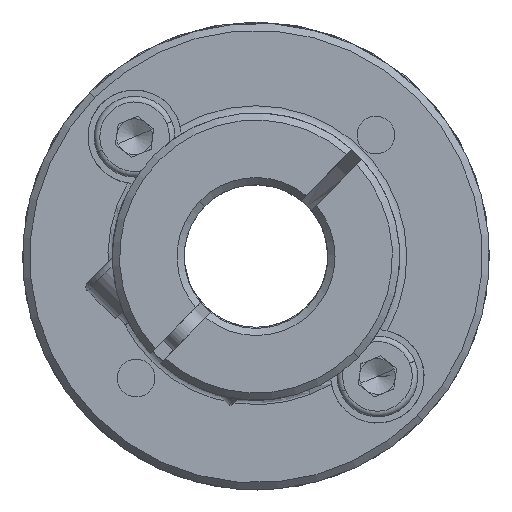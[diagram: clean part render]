
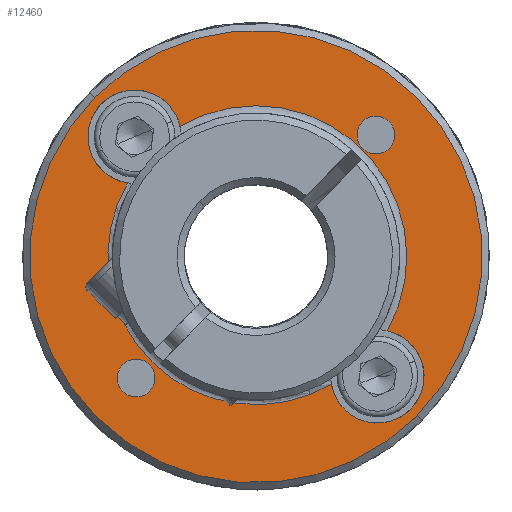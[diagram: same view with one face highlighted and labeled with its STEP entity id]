
A CAD part, front view. The second image highlights one B-rep face of the part: STEP entity #12460.
In plain terms, the highlighted planar face has unit normal (0, -1, 0).
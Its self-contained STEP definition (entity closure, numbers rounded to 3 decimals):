
#289 = ORIENTED_EDGE ( 'NONE', *, *, #15441, .T. ) ;
#295 = CARTESIAN_POINT ( 'NONE',  ( -11.496, -18.979, 19.914 ) ) ;
#310 = DIRECTION ( 'NONE',  ( -0.712, 0., 0.702 ) ) ;
#413 = AXIS2_PLACEMENT_3D ( 'NONE', #5800, #5734, #14969 ) ;
#798 = ORIENTED_EDGE ( 'NONE', *, *, #9162, .T. ) ;
#807 = ORIENTED_EDGE ( 'NONE', *, *, #17052, .T. ) ;
#878 = CARTESIAN_POINT ( 'NONE',  ( 2.598, -18.979, 32.699 ) ) ;
#915 = AXIS2_PLACEMENT_3D ( 'NONE', #3664, #6570, #6639 ) ;
#1114 = CIRCLE ( 'NONE', #915, 2.6 ) ;
#1464 = EDGE_CURVE ( 'NONE', #9658, #8188, #12120, .T. ) ;
#1711 = DIRECTION ( 'NONE',  ( 0., 1., 0. ) ) ;
#1752 = ORIENTED_EDGE ( 'NONE', *, *, #13676, .T. ) ;
#2036 = CIRCLE ( 'NONE', #6855, 1.05 ) ;
#2601 = DIRECTION ( 'NONE',  ( 0., -1., 0. ) ) ;
#2817 = DIRECTION ( 'NONE',  ( 0., -1., 0. ) ) ;
#2826 = CARTESIAN_POINT ( 'NONE',  ( 2.686, -18.979, 19.264 ) ) ;
#3136 = EDGE_CURVE ( 'NONE', #15263, #19233, #2036, .T. ) ;
#3258 = ORIENTED_EDGE ( 'NONE', *, *, #3136, .T. ) ;
#3391 = CARTESIAN_POINT ( 'NONE',  ( -10.749, -18.979, 19.176 ) ) ;
#3664 = CARTESIAN_POINT ( 'NONE',  ( 2.686, -18.979, 19.264 ) ) ;
#3709 = CARTESIAN_POINT ( 'NONE',  ( -10.002, -18.979, 18.439 ) ) ;
#3752 = DIRECTION ( 'NONE',  ( 0., 1., 0. ) ) ;
#4216 = DIRECTION ( 'NONE',  ( -0.712, 0., 0.702 ) ) ;
#4403 = CARTESIAN_POINT ( 'NONE',  ( -10.749, -18.979, 19.176 ) ) ;
#4815 = CARTESIAN_POINT ( 'NONE',  ( 1.85, -18.979, 33.437 ) ) ;
#4888 = DIRECTION ( 'NONE',  ( 0., 1., 0. ) ) ;
#5067 = CARTESIAN_POINT ( 'NONE',  ( 4.536, -18.979, 17.438 ) ) ;
#5505 = CARTESIAN_POINT ( 'NONE',  ( -4.076, -18.979, 25.938 ) ) ;
#5595 = DIRECTION ( 'NONE',  ( 0., 1., 0. ) ) ;
#5605 = CIRCLE ( 'NONE', #10765, 8.4 ) ;
#5725 = EDGE_LOOP ( 'NONE', ( #1752, #289 ) ) ;
#5734 = DIRECTION ( 'NONE',  ( 0., -1., 0. ) ) ;
#5757 = DIRECTION ( 'NONE',  ( -0.712, 0., 0.702 ) ) ;
#5800 = CARTESIAN_POINT ( 'NONE',  ( -4.076, -18.979, 25.938 ) ) ;
#6570 = DIRECTION ( 'NONE',  ( 0., 1., 0. ) ) ;
#6626 = EDGE_LOOP ( 'NONE', ( #17281, #14315 ) ) ;
#6639 = DIRECTION ( 'NONE',  ( -0.712, 0., 0.702 ) ) ;
#6726 = DIRECTION ( 'NONE',  ( -0.712, 0., 0.702 ) ) ;
#6759 = EDGE_CURVE ( 'NONE', #12612, #12569, #11797, .T. ) ;
#6855 = AXIS2_PLACEMENT_3D ( 'NONE', #18098, #14918, #7590 ) ;
#7086 = VERTEX_POINT ( 'NONE', #5067 ) ;
#7101 = FACE_BOUND ( 'NONE', #8597, .T. ) ;
#7285 = CARTESIAN_POINT ( 'NONE',  ( 3.238, -18.979, 21.805 ) ) ;
#7306 = DIRECTION ( 'NONE',  ( 0., 1., 0. ) ) ;
#7590 = DIRECTION ( 'NONE',  ( -0.712, 0., 0.702 ) ) ;
#7704 = ORIENTED_EDGE ( 'NONE', *, *, #9376, .T. ) ;
#7831 = DIRECTION ( 'NONE',  ( 0., 1., 0. ) ) ;
#8104 = AXIS2_PLACEMENT_3D ( 'NONE', #5505, #17601, #13412 ) ;
#8166 = AXIS2_PLACEMENT_3D ( 'NONE', #17832, #2601, #4216 ) ;
#8188 = VERTEX_POINT ( 'NONE', #9978 ) ;
#8211 = CARTESIAN_POINT ( 'NONE',  ( 3.345, -18.979, 31.962 ) ) ;
#8354 = DIRECTION ( 'NONE',  ( 0., 1., 0. ) ) ;
#8467 = ORIENTED_EDGE ( 'NONE', *, *, #9253, .T. ) ;
#8517 = DIRECTION ( 'NONE',  ( -0.712, 0., 0.702 ) ) ;
#8597 = EDGE_LOOP ( 'NONE', ( #807, #3258 ) ) ;
#8928 = CARTESIAN_POINT ( 'NONE',  ( -12.688, -18.979, 34.437 ) ) ;
#9162 = EDGE_CURVE ( 'NONE', #12569, #9358, #5605, .T. ) ;
#9219 = CARTESIAN_POINT ( 'NONE',  ( -4.076, -18.979, 25.938 ) ) ;
#9253 = EDGE_CURVE ( 'NONE', #7086, #9658, #1114, .T. ) ;
#9353 = AXIS2_PLACEMENT_3D ( 'NONE', #3391, #4888, #310 ) ;
#9358 = VERTEX_POINT ( 'NONE', #7285 ) ;
#9376 = EDGE_CURVE ( 'NONE', #9358, #7086, #10332, .T. ) ;
#9658 = VERTEX_POINT ( 'NONE', #15321 ) ;
#9976 = VERTEX_POINT ( 'NONE', #3709 ) ;
#9978 = CARTESIAN_POINT ( 'NONE',  ( -11.23, -18.979, 30.041 ) ) ;
#10101 = ORIENTED_EDGE ( 'NONE', *, *, #6759, .T. ) ;
#10180 = CARTESIAN_POINT ( 'NONE',  ( -4.076, -18.979, 25.938 ) ) ;
#10332 = CIRCLE ( 'NONE', #17088, 2.6 ) ;
#10561 = CARTESIAN_POINT ( 'NONE',  ( -8.304, -18.979, 33.196 ) ) ;
#10765 = AXIS2_PLACEMENT_3D ( 'NONE', #9219, #1711, #12361 ) ;
#10801 = DIRECTION ( 'NONE',  ( -0.712, 0., 0.702 ) ) ;
#10870 = EDGE_LOOP ( 'NONE', ( #7704, #8467, #17428, #11829, #10101, #798 ) ) ;
#11797 = CIRCLE ( 'NONE', #17945, 2.6 ) ;
#11829 = ORIENTED_EDGE ( 'NONE', *, *, #18304, .T. ) ;
#12003 = CIRCLE ( 'NONE', #9353, 1.05 ) ;
#12120 = CIRCLE ( 'NONE', #8104, 8.247 ) ;
#12361 = DIRECTION ( 'NONE',  ( -0.712, 0., 0.702 ) ) ;
#12460 = ADVANCED_FACE ( 'NONE', ( #17516, #7101, #16549, #17740 ), #19115, .T. ) ;
#12569 = VERTEX_POINT ( 'NONE', #10561 ) ;
#12612 = VERTEX_POINT ( 'NONE', #8928 ) ;
#12708 = CARTESIAN_POINT ( 'NONE',  ( -10.837, -18.979, 32.611 ) ) ;
#12709 = CIRCLE ( 'NONE', #14614, 1.05 ) ;
#12866 = CIRCLE ( 'NONE', #413, 12.6 ) ;
#13267 = EDGE_CURVE ( 'NONE', #9976, #18046, #12709, .T. ) ;
#13412 = DIRECTION ( 'NONE',  ( -0.712, 0., 0.702 ) ) ;
#13676 = EDGE_CURVE ( 'NONE', #19354, #17416, #19064, .T. ) ;
#13715 = AXIS2_PLACEMENT_3D ( 'NONE', #12708, #3752, #6726 ) ;
#13870 = EDGE_CURVE ( 'NONE', #18046, #9976, #12003, .T. ) ;
#14315 = ORIENTED_EDGE ( 'NONE', *, *, #13870, .T. ) ;
#14614 = AXIS2_PLACEMENT_3D ( 'NONE', #4403, #7831, #10801 ) ;
#14634 = DIRECTION ( 'NONE',  ( -0.712, 0., 0.702 ) ) ;
#14758 = CARTESIAN_POINT ( 'NONE',  ( -10.837, -18.979, 32.611 ) ) ;
#14918 = DIRECTION ( 'NONE',  ( 0., 1., 0. ) ) ;
#14969 = DIRECTION ( 'NONE',  ( -0.712, 0., 0.702 ) ) ;
#14971 = CIRCLE ( 'NONE', #13715, 2.6 ) ;
#14998 = AXIS2_PLACEMENT_3D ( 'NONE', #10180, #2817, #5757 ) ;
#15263 = VERTEX_POINT ( 'NONE', #4815 ) ;
#15321 = CARTESIAN_POINT ( 'NONE',  ( 0.121, -18.979, 18.838 ) ) ;
#15441 = EDGE_CURVE ( 'NONE', #17416, #19354, #12866, .T. ) ;
#16205 = CIRCLE ( 'NONE', #18375, 1.05 ) ;
#16549 = FACE_BOUND ( 'NONE', #6626, .T. ) ;
#17052 = EDGE_CURVE ( 'NONE', #19233, #15263, #16205, .T. ) ;
#17088 = AXIS2_PLACEMENT_3D ( 'NONE', #2826, #8354, #19405 ) ;
#17281 = ORIENTED_EDGE ( 'NONE', *, *, #13267, .T. ) ;
#17416 = VERTEX_POINT ( 'NONE', #18652 ) ;
#17428 = ORIENTED_EDGE ( 'NONE', *, *, #1464, .T. ) ;
#17516 = FACE_OUTER_BOUND ( 'NONE', #5725, .T. ) ;
#17601 = DIRECTION ( 'NONE',  ( 0., 1., 0. ) ) ;
#17740 = FACE_BOUND ( 'NONE', #10870, .T. ) ;
#17832 = CARTESIAN_POINT ( 'NONE',  ( -4.076, -18.979, 25.938 ) ) ;
#17945 = AXIS2_PLACEMENT_3D ( 'NONE', #14758, #7306, #14634 ) ;
#18046 = VERTEX_POINT ( 'NONE', #295 ) ;
#18098 = CARTESIAN_POINT ( 'NONE',  ( 2.598, -18.979, 32.699 ) ) ;
#18304 = EDGE_CURVE ( 'NONE', #8188, #12612, #14971, .T. ) ;
#18375 = AXIS2_PLACEMENT_3D ( 'NONE', #878, #5595, #8517 ) ;
#18652 = CARTESIAN_POINT ( 'NONE',  ( -13.043, -18.979, 34.789 ) ) ;
#18871 = CARTESIAN_POINT ( 'NONE',  ( 4.892, -18.979, 17.087 ) ) ;
#19064 = CIRCLE ( 'NONE', #14998, 12.6 ) ;
#19115 = PLANE ( 'NONE',  #8166 ) ;
#19233 = VERTEX_POINT ( 'NONE', #8211 ) ;
#19354 = VERTEX_POINT ( 'NONE', #18871 ) ;
#19405 = DIRECTION ( 'NONE',  ( -0.712, 0., 0.702 ) ) ;
